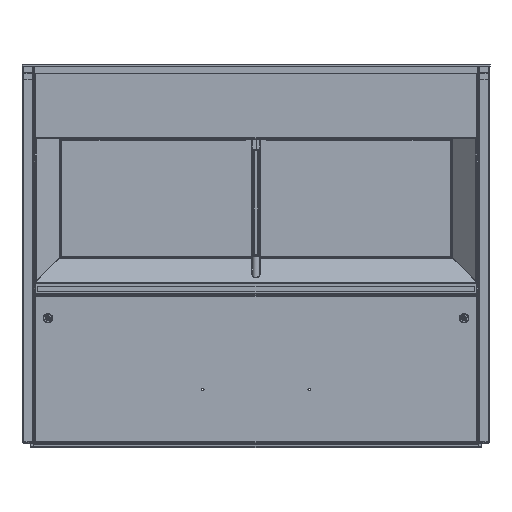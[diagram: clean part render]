
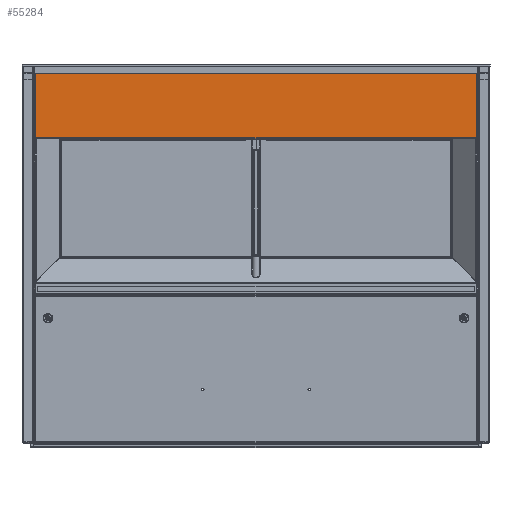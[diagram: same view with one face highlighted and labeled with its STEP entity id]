
A CAD part, top view. The second image highlights one B-rep face of the part: STEP entity #55284.
In plain terms, the highlighted planar face has unit normal (0, 0, 1).
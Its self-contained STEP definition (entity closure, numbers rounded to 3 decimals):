
#764 = CARTESIAN_POINT ( 'NONE',  ( -515.9, 3., 74. ) ) ;
#1514 = LINE ( 'NONE', #77155, #73849 ) ;
#3170 = VECTOR ( 'NONE', #15746, 1000. ) ;
#3859 = EDGE_CURVE ( 'NONE', #45670, #32591, #16631, .T. ) ;
#4053 = CARTESIAN_POINT ( 'NONE',  ( 518.9, 0.5, 74. ) ) ;
#4544 = CARTESIAN_POINT ( 'NONE',  ( -518.9, 0.5, 74. ) ) ;
#4751 = CARTESIAN_POINT ( 'NONE',  ( -521.9, 155., 74. ) ) ;
#4879 = CARTESIAN_POINT ( 'NONE',  ( 518.9, 155., 74. ) ) ;
#5192 = ORIENTED_EDGE ( 'NONE', *, *, #37107, .F. ) ;
#7815 = CARTESIAN_POINT ( 'NONE',  ( 515.9, 3., 74. ) ) ;
#10790 = EDGE_CURVE ( 'NONE', #22474, #43676, #28708, .T. ) ;
#13288 = DIRECTION ( 'NONE',  ( -1., 0., 0. ) ) ;
#14222 = CARTESIAN_POINT ( 'NONE',  ( 515.95, 0.5, 74. ) ) ;
#15345 = LINE ( 'NONE', #33361, #3170 ) ;
#15746 = DIRECTION ( 'NONE',  ( 0., 1., 0. ) ) ;
#16464 = CARTESIAN_POINT ( 'NONE',  ( -521.9, 0.5, 74. ) ) ;
#16631 = LINE ( 'NONE', #81340, #20017 ) ;
#17844 = VERTEX_POINT ( 'NONE', #51956 ) ;
#18003 = EDGE_CURVE ( 'NONE', #60816, #45670, #55995, .T. ) ;
#18899 = DIRECTION ( 'NONE',  ( 0., 0., -1. ) ) ;
#19257 = ORIENTED_EDGE ( 'NONE', *, *, #3859, .F. ) ;
#20017 = VECTOR ( 'NONE', #54861, 1000. ) ;
#22113 = VECTOR ( 'NONE', #22792, 1000. ) ;
#22382 = DIRECTION ( 'NONE',  ( 1., 0., 0. ) ) ;
#22474 = VERTEX_POINT ( 'NONE', #78267 ) ;
#22792 = DIRECTION ( 'NONE',  ( -1., 0., 0. ) ) ;
#25184 = FACE_OUTER_BOUND ( 'NONE', #32533, .T. ) ;
#26987 = ORIENTED_EDGE ( 'NONE', *, *, #32696, .F. ) ;
#28708 = LINE ( 'NONE', #68723, #38818 ) ;
#30783 = VECTOR ( 'NONE', #76294, 1000. ) ;
#31293 = VECTOR ( 'NONE', #41893, 1000. ) ;
#31342 = LINE ( 'NONE', #4544, #62789 ) ;
#32163 = VERTEX_POINT ( 'NONE', #46679 ) ;
#32533 = EDGE_LOOP ( 'NONE', ( #82979, #53628, #19257, #78053, #5192, #36558, #26987, #53115, #72452, #72044, #54073, #78423 ) ) ;
#32591 = VERTEX_POINT ( 'NONE', #34752 ) ;
#32696 = EDGE_CURVE ( 'NONE', #60455, #74648, #31342, .T. ) ;
#32886 = EDGE_CURVE ( 'NONE', #56502, #50187, #64166, .T. ) ;
#33361 = CARTESIAN_POINT ( 'NONE',  ( -515.9, -51.592, 74. ) ) ;
#34669 = VECTOR ( 'NONE', #22382, 1000. ) ;
#34752 = CARTESIAN_POINT ( 'NONE',  ( 515.95, 1.5, 74. ) ) ;
#36030 = DIRECTION ( 'NONE',  ( 0., 1., 0. ) ) ;
#36558 = ORIENTED_EDGE ( 'NONE', *, *, #72779, .F. ) ;
#36812 = CARTESIAN_POINT ( 'NONE',  ( 515.9, 1.5, 74. ) ) ;
#37107 = EDGE_CURVE ( 'NONE', #17844, #60816, #43134, .T. ) ;
#38402 = EDGE_CURVE ( 'NONE', #32163, #50187, #15345, .T. ) ;
#38818 = VECTOR ( 'NONE', #48120, 1000. ) ;
#39901 = CARTESIAN_POINT ( 'NONE',  ( -518.9, 0.5, 74. ) ) ;
#41893 = DIRECTION ( 'NONE',  ( 0., -1., 0. ) ) ;
#43134 = LINE ( 'NONE', #4879, #31293 ) ;
#43676 = VERTEX_POINT ( 'NONE', #71777 ) ;
#43956 = VERTEX_POINT ( 'NONE', #76309 ) ;
#44969 = AXIS2_PLACEMENT_3D ( 'NONE', #69000, #18899, #70200 ) ;
#45670 = VERTEX_POINT ( 'NONE', #14222 ) ;
#46679 = CARTESIAN_POINT ( 'NONE',  ( -515.9, 1.5, 74. ) ) ;
#48120 = DIRECTION ( 'NONE',  ( 0., 1., 0. ) ) ;
#49713 = CARTESIAN_POINT ( 'NONE',  ( 521.9, 0.5, 74. ) ) ;
#50187 = VERTEX_POINT ( 'NONE', #764 ) ;
#51956 = CARTESIAN_POINT ( 'NONE',  ( 518.9, 155., 74. ) ) ;
#52029 = VECTOR ( 'NONE', #77983, 1000. ) ;
#53115 = ORIENTED_EDGE ( 'NONE', *, *, #64687, .T. ) ;
#53628 = ORIENTED_EDGE ( 'NONE', *, *, #60018, .T. ) ;
#54073 = ORIENTED_EDGE ( 'NONE', *, *, #38402, .T. ) ;
#54861 = DIRECTION ( 'NONE',  ( 0., 1., 0. ) ) ;
#54988 = CARTESIAN_POINT ( 'NONE',  ( 515.9, -51.592, 74. ) ) ;
#55284 = ADVANCED_FACE ( 'NONE', ( #25184 ), #76495, .F. ) ;
#55995 = LINE ( 'NONE', #49713, #22113 ) ;
#56502 = VERTEX_POINT ( 'NONE', #71204 ) ;
#60018 = EDGE_CURVE ( 'NONE', #43956, #32591, #82234, .T. ) ;
#60455 = VERTEX_POINT ( 'NONE', #39901 ) ;
#60816 = VERTEX_POINT ( 'NONE', #4053 ) ;
#61009 = DIRECTION ( 'NONE',  ( 1., 0., 0. ) ) ;
#61721 = DIRECTION ( 'NONE',  ( 0., 1., 0. ) ) ;
#62789 = VECTOR ( 'NONE', #61721, 1000. ) ;
#64166 = LINE ( 'NONE', #7815, #52029 ) ;
#64687 = EDGE_CURVE ( 'NONE', #60455, #22474, #68175, .T. ) ;
#67102 = CARTESIAN_POINT ( 'NONE',  ( -518.9, 155., 74. ) ) ;
#67424 = LINE ( 'NONE', #4751, #34669 ) ;
#68175 = LINE ( 'NONE', #16464, #75568 ) ;
#68723 = CARTESIAN_POINT ( 'NONE',  ( -515.95, 0.5, 74. ) ) ;
#69000 = CARTESIAN_POINT ( 'NONE',  ( -521.9, 155., 74. ) ) ;
#70200 = DIRECTION ( 'NONE',  ( -1., 0., 0. ) ) ;
#71204 = CARTESIAN_POINT ( 'NONE',  ( 515.9, 3., 74. ) ) ;
#71777 = CARTESIAN_POINT ( 'NONE',  ( -515.95, 1.5, 74. ) ) ;
#72044 = ORIENTED_EDGE ( 'NONE', *, *, #74459, .F. ) ;
#72452 = ORIENTED_EDGE ( 'NONE', *, *, #10790, .T. ) ;
#72779 = EDGE_CURVE ( 'NONE', #74648, #17844, #67424, .T. ) ;
#73849 = VECTOR ( 'NONE', #13288, 1000. ) ;
#74459 = EDGE_CURVE ( 'NONE', #32163, #43676, #1514, .T. ) ;
#74648 = VERTEX_POINT ( 'NONE', #67102 ) ;
#75526 = VECTOR ( 'NONE', #36030, 1000. ) ;
#75568 = VECTOR ( 'NONE', #61009, 1000. ) ;
#76294 = DIRECTION ( 'NONE',  ( 1., 0., 0. ) ) ;
#76309 = CARTESIAN_POINT ( 'NONE',  ( 515.9, 1.5, 74. ) ) ;
#76495 = PLANE ( 'NONE',  #44969 ) ;
#77155 = CARTESIAN_POINT ( 'NONE',  ( -515.9, 1.5, 74. ) ) ;
#77983 = DIRECTION ( 'NONE',  ( -1., 0., 0. ) ) ;
#78053 = ORIENTED_EDGE ( 'NONE', *, *, #18003, .F. ) ;
#78267 = CARTESIAN_POINT ( 'NONE',  ( -515.95, 0.5, 74. ) ) ;
#78423 = ORIENTED_EDGE ( 'NONE', *, *, #32886, .F. ) ;
#80649 = LINE ( 'NONE', #54988, #75526 ) ;
#81043 = EDGE_CURVE ( 'NONE', #43956, #56502, #80649, .T. ) ;
#81340 = CARTESIAN_POINT ( 'NONE',  ( 515.95, 0.5, 74. ) ) ;
#82234 = LINE ( 'NONE', #36812, #30783 ) ;
#82979 = ORIENTED_EDGE ( 'NONE', *, *, #81043, .F. ) ;
